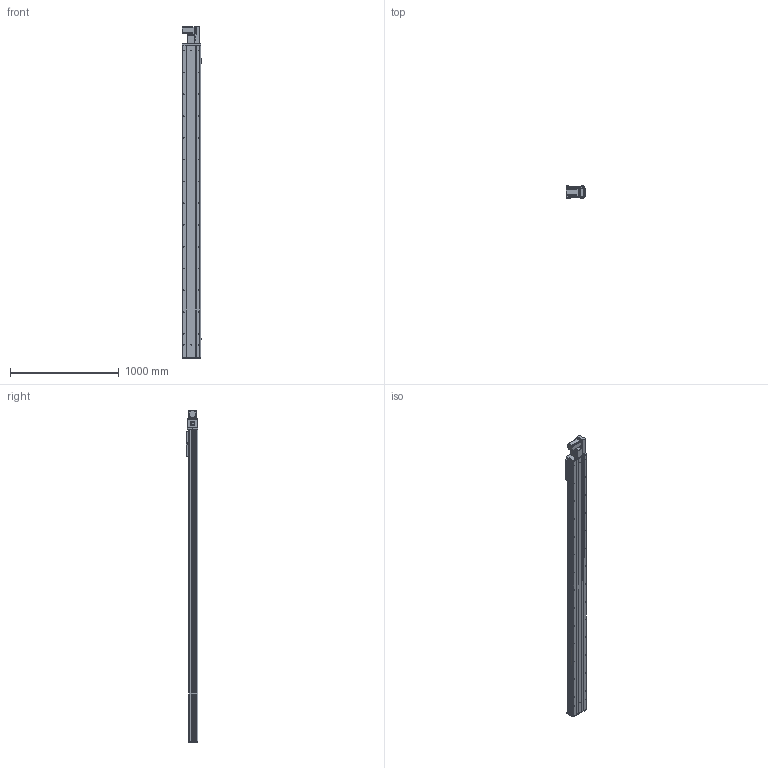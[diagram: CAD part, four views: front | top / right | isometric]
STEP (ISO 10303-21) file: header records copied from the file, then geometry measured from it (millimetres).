
FILE_DESCRIPTION (( 'STEP AP203' ), '1' );
FILE_NAME ('Y170CB-D105-S2550-BR-P400W.STEP', '2020-02-19T09:51:40', ( '微软用户' ), ( '微软中国' ), 'SwSTEP 2.0', 'SolidWorks 2017', '' );
FILE_SCHEMA (( 'CONFIG_CONTROL_DESIGN' ));
Length unit declared in the file: millimetre
Products named in the file (17): 17B-耜蚾蟀諉啣----; 70B喘謫眊----; B-源倛裔啣; 0B-萇儂楊擘啣; --70CB --喘謫眊楊擘啣-; san松下电机400不带刹车----; Y70俋欶BR----; 70CB-掛极-; 70CB-耜裔啣-; 70C--詩湍揤踡え-; 70CB--耜裔; 70C-雄赽釱-奻-; 0C--雄赽釱俋欶-170; 70CB-詩湍--; Y100-135俋离換覜ん--; Y170CB-陔俋离換覜結え---; Y170CB-D105-S2550-BR-P400W
Assembly tree (20 placements, depth 2):
  Y170CB-D105-S2550-BR-P400W
    70B喘謫眊----
    B-源倛裔啣
    17B-耜蚾蟀諉啣----
    0B-萇儂楊擘啣
    san松下电机400不带刹车----
    Y70俋欶BR----
    70CB-掛极-
    --70CB --喘謫眊楊擘啣-
    70CB-耜裔啣-  x2
    70C--詩湍揤踡え-  x2
    70CB--耜裔
    70C-雄赽釱-奻-
    0C--雄赽釱俋欶-170
    70CB-詩湍--
    Y100-135俋离換覜ん--  x3
    Y170CB-陔俋离換覜結え---
Bounding box: 183.5 x 107 x 3047 mm (x, y, z)
Volume: 12634943 mm3; surface area: 4555921.3 mm2
Topology: 20 solids, 20 shells, 1057 faces, 2849 edges, 1890 vertices
Faces by surface type: cylinder 571, plane 462, cone 24
Entity records: 33795 total; most frequent: CARTESIAN_POINT 6261, DIRECTION 5500, ORIENTED_EDGE 5180, EDGE_CURVE 2590, AXIS2_PLACEMENT_3D 2025, VERTEX_POINT 1720, VECTOR 1450, LINE 1450
